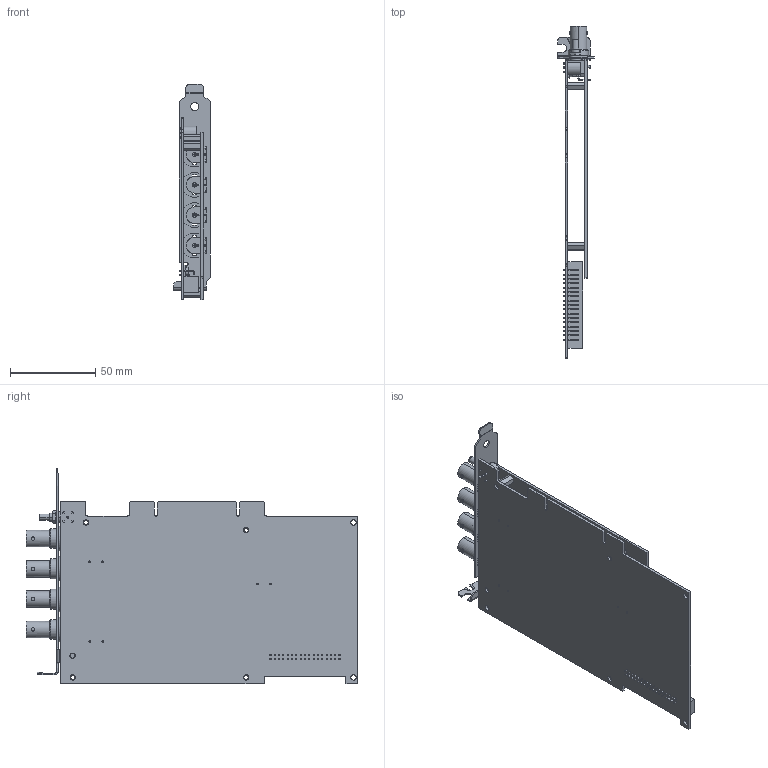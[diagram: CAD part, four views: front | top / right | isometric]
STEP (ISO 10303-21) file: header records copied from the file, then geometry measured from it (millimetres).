
FILE_DESCRIPTION((''),'2;1');
FILE_NAME('CD_PCI-4462','2008-09-23T',('scarrasc'),(''),'PRO/ENGINEER BY PARAMETRIC TECHNOLOGY CORPORATION, 2006300','PRO/ENGINEER BY PARAMETRIC TECHNOLOGY CORPORATION, 2006300','');
FILE_SCHEMA(('CONFIG_CONTROL_DESIGN'));
Length unit declared in the file: inch
Products named in the file (1): CD_PCI-4462
Bounding box: 21.59 x 194.5 x 126.22 mm (x, y, z)
Volume: 59531.7 mm3; surface area: 76738.3 mm2
Topology: 1 solids, 1 shells, 1165 faces, 3051 edges, 1998 vertices
Faces by surface type: plane 770, cylinder 367, cone 12, torus 12, bspline 4
Entity records: 36985 total; most frequent: CARTESIAN_POINT 7248, ORIENTED_EDGE 6102, DIRECTION 6071, EDGE_CURVE 3051, VECTOR 2249, LINE 2249, VERTEX_POINT 1998, AXIS2_PLACEMENT_3D 1911
